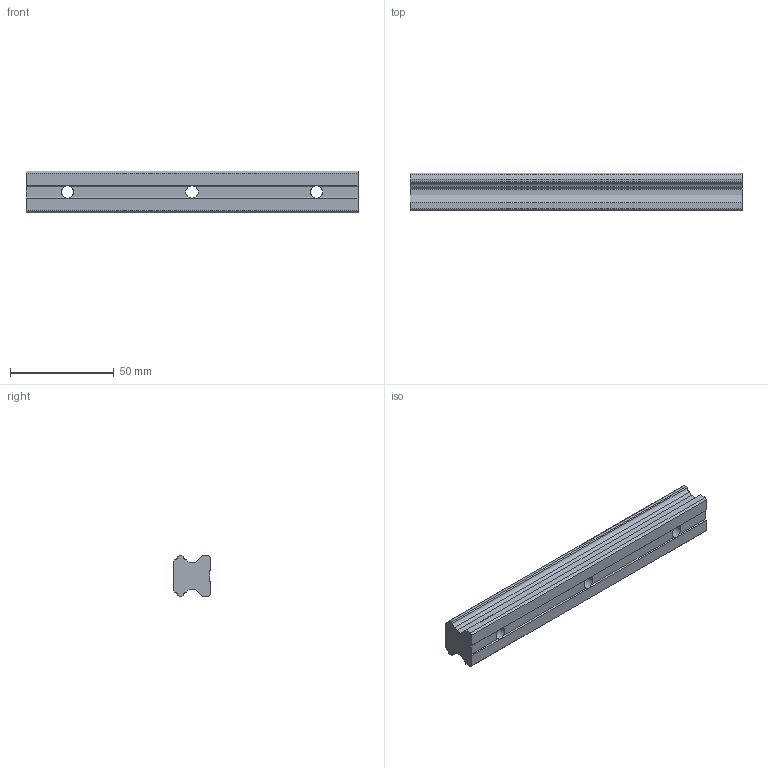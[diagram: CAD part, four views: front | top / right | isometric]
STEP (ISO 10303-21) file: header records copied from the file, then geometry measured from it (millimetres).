
FILE_DESCRIPTION(/* description */ ('STEP AP203'),/* implementation_level */ '2;1');
FILE_NAME(/* name */ 'HSR20-160L(GK) RAIL(20)',/* time_stamp */ '2024-05-21T04:44:00+02:00',/* author */ ('License CC BY-ND 4.0'),/* organization */ ('CADENAS'),/* preprocessor_version */ 'ST-DEVELOPER v19.3',/* originating_system */ 'PARTsolutions',/* authorisation */ ' ');
FILE_SCHEMA (('CONFIG_CONTROL_DESIGN'));
Length unit declared in the file: millimetre
Products named in the file (1): HSR20-160L(GK) RAIL(20)
Bounding box: 160 x 18 x 20 mm (x, y, z)
Volume: 45686.5 mm3; surface area: 14233.6 mm2
Topology: 1 solids, 1 shells, 48 faces, 129 edges, 83 vertices
Faces by surface type: plane 38, cylinder 10
Full cylindrical faces by diameter (mm): 6 x3, 9.5 x3
Entity records: 1508 total; most frequent: DIRECTION 256, CARTESIAN_POINT 255, ORIENTED_EDGE 246, EDGE_CURVE 123, LINE 88, VECTOR 88, AXIS2_PLACEMENT_3D 84, VERTEX_POINT 83
